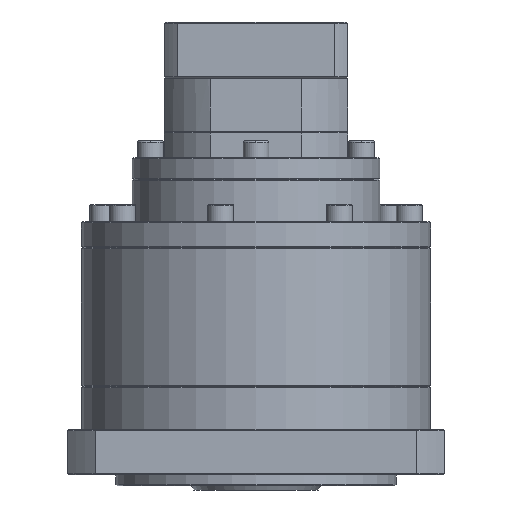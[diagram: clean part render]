
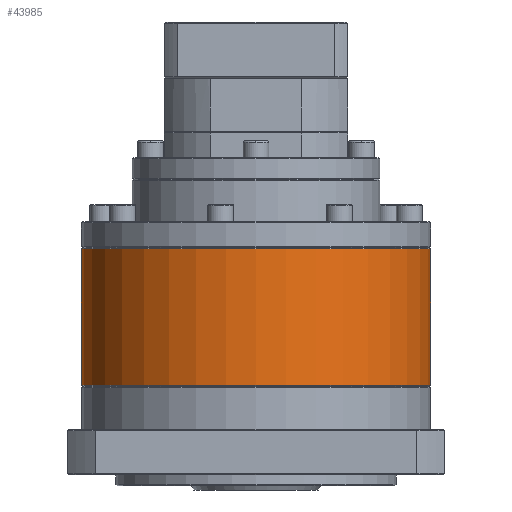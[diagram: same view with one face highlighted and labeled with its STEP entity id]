
A CAD part, front view. The second image highlights one B-rep face of the part: STEP entity #43985.
In plain terms, the highlighted cylindrical face has radius 81 mm (diameter 162 mm), a partial arc.
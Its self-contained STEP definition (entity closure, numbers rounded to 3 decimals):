
#179 = ORIENTED_EDGE ( 'NONE', *, *, #60735, .T. ) ;
#3582 = CARTESIAN_POINT ( 'NONE',  ( -76.032, 28.866, -120.136 ) ) ;
#6623 = EDGE_LOOP ( 'NONE', ( #62833, #179, #55942, #49779, #14547 ) ) ;
#10075 = CARTESIAN_POINT ( 'NONE',  ( 4.968, 28.866, -183.636 ) ) ;
#11005 = LINE ( 'NONE', #76827, #22875 ) ;
#11577 = LINE ( 'NONE', #83060, #34100 ) ;
#14547 = ORIENTED_EDGE ( 'NONE', *, *, #86153, .T. ) ;
#18033 = CARTESIAN_POINT ( 'NONE',  ( -76.032, 28.866, -119.636 ) ) ;
#19037 = EDGE_CURVE ( 'NONE', #94901, #52471, #11005, .T. ) ;
#22875 = VECTOR ( 'NONE', #25674, 1000. ) ;
#24426 = AXIS2_PLACEMENT_3D ( 'NONE', #18033, #85397, #78704 ) ;
#24777 = AXIS2_PLACEMENT_3D ( 'NONE', #27290, #80418, #41860 ) ;
#25674 = DIRECTION ( 'NONE',  ( 0., 0., -1. ) ) ;
#27290 = CARTESIAN_POINT ( 'NONE',  ( -76.032, 28.866, -120.136 ) ) ;
#31635 = CARTESIAN_POINT ( 'NONE',  ( -76.032, 28.866, -183.636 ) ) ;
#34100 = VECTOR ( 'NONE', #38196, 1000. ) ;
#35394 = DIRECTION ( 'NONE',  ( 0., 0., -1. ) ) ;
#38196 = DIRECTION ( 'NONE',  ( 0., 0., -1. ) ) ;
#38479 = CYLINDRICAL_SURFACE ( 'NONE', #24426, 81. ) ;
#38803 = VERTEX_POINT ( 'NONE', #74806 ) ;
#41860 = DIRECTION ( 'NONE',  ( -1., 0., 0. ) ) ;
#43985 = ADVANCED_FACE ( 'NONE', ( #55056 ), #38479, .T. ) ;
#44762 = CARTESIAN_POINT ( 'NONE',  ( -76.032, -52.134, -120.136 ) ) ;
#47050 = AXIS2_PLACEMENT_3D ( 'NONE', #3582, #35394, #88514 ) ;
#49779 = ORIENTED_EDGE ( 'NONE', *, *, #19037, .T. ) ;
#52471 = VERTEX_POINT ( 'NONE', #85845 ) ;
#55056 = FACE_OUTER_BOUND ( 'NONE', #6623, .T. ) ;
#55942 = ORIENTED_EDGE ( 'NONE', *, *, #94702, .T. ) ;
#60735 = EDGE_CURVE ( 'NONE', #38803, #87739, #61275, .T. ) ;
#61275 = CIRCLE ( 'NONE', #24777, 81. ) ;
#62833 = ORIENTED_EDGE ( 'NONE', *, *, #77920, .F. ) ;
#67353 = AXIS2_PLACEMENT_3D ( 'NONE', #31635, #84762, #69504 ) ;
#69504 = DIRECTION ( 'NONE',  ( -1., 0., 0. ) ) ;
#71718 = VERTEX_POINT ( 'NONE', #10075 ) ;
#73570 = CARTESIAN_POINT ( 'NONE',  ( -157.032, 28.866, -120.136 ) ) ;
#74806 = CARTESIAN_POINT ( 'NONE',  ( 4.968, 28.866, -120.136 ) ) ;
#76827 = CARTESIAN_POINT ( 'NONE',  ( -157.032, 28.866, -119.636 ) ) ;
#77920 = EDGE_CURVE ( 'NONE', #38803, #71718, #11577, .T. ) ;
#78704 = DIRECTION ( 'NONE',  ( -1., 0., 0. ) ) ;
#80418 = DIRECTION ( 'NONE',  ( 0., 0., -1. ) ) ;
#83060 = CARTESIAN_POINT ( 'NONE',  ( 4.968, 28.866, -119.636 ) ) ;
#83800 = CIRCLE ( 'NONE', #47050, 81. ) ;
#84762 = DIRECTION ( 'NONE',  ( 0., 0., 1. ) ) ;
#85397 = DIRECTION ( 'NONE',  ( 0., 0., -1. ) ) ;
#85845 = CARTESIAN_POINT ( 'NONE',  ( -157.032, 28.866, -183.636 ) ) ;
#85988 = CIRCLE ( 'NONE', #67353, 81. ) ;
#86153 = EDGE_CURVE ( 'NONE', #52471, #71718, #85988, .T. ) ;
#87739 = VERTEX_POINT ( 'NONE', #44762 ) ;
#88514 = DIRECTION ( 'NONE',  ( -1., 0., 0. ) ) ;
#94702 = EDGE_CURVE ( 'NONE', #87739, #94901, #83800, .T. ) ;
#94901 = VERTEX_POINT ( 'NONE', #73570 ) ;
